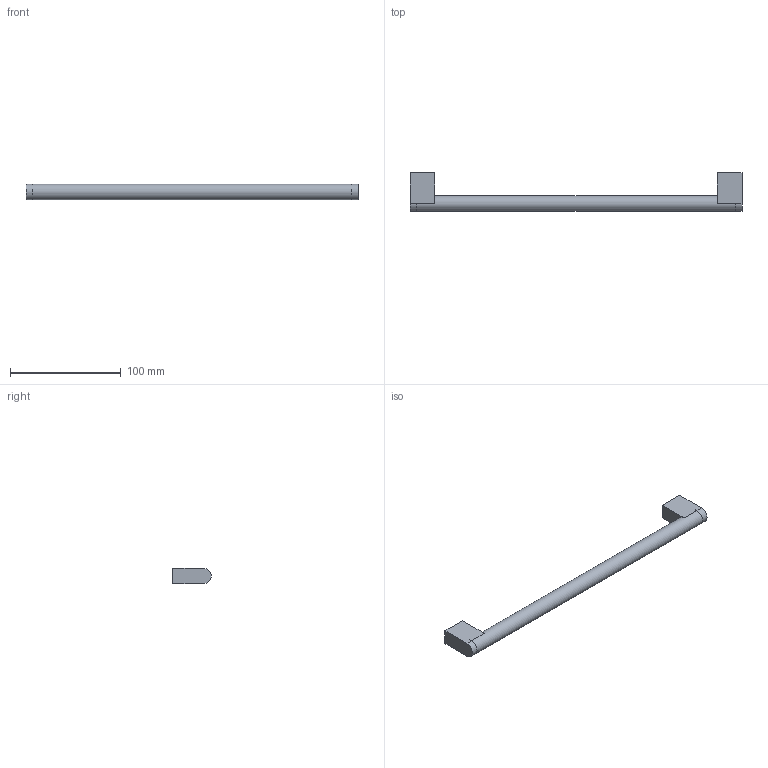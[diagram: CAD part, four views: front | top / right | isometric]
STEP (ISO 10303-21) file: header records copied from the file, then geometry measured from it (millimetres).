
FILE_DESCRIPTION( ( 'STEP AP214' ), ' ' );
FILE_NAME( 'C:/Users/bhog/Desktop/Handle/9070108/9070108.stp', '2018-11-20T10:20:48', ( '' ), ( '' ), ' ', 'PARTsolutions', ' ' );
FILE_SCHEMA( ( 'AUTOMOTIVE_DESIGN { 1 0 10303 214 1 1 1 1 }' ) );
Length unit declared in the file: millimetre
Products named in the file (1): _9070108
Bounding box: 300 x 35 x 14 mm (x, y, z)
Volume: 59853.9 mm3; surface area: 18571.8 mm2
Topology: 1 solids, 1 shells, 21 faces, 41 edges, 26 vertices
Faces by surface type: plane 14, cylinder 7
Full cylindrical faces by diameter (mm): 4 x2, 13.98 x1
Entity records: 706 total; most frequent: DIRECTION 96, CARTESIAN_POINT 86, ORIENTED_EDGE 76, EDGE_CURVE 38, AXIS2_PLACEMENT_3D 36, EDGE_LOOP 28, VERTEX_POINT 26, FACE_OUTER_BOUND 24
